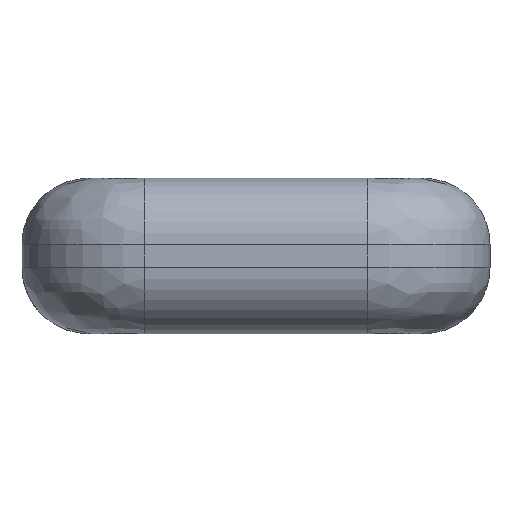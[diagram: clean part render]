
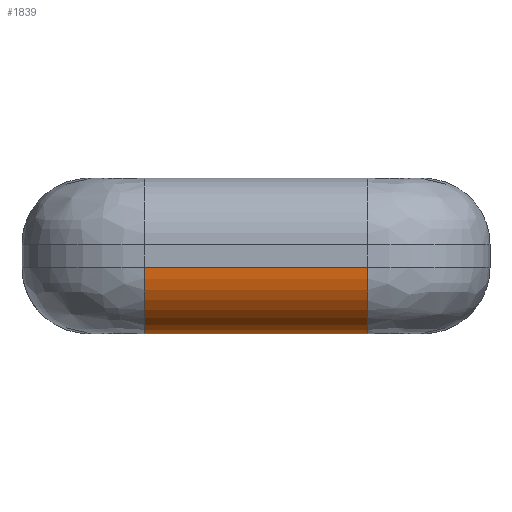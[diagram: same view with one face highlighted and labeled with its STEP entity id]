
A CAD part, front view. The second image highlights one B-rep face of the part: STEP entity #1839.
In plain terms, the highlighted cylindrical face has radius 12 mm (diameter 24 mm), a partial arc.
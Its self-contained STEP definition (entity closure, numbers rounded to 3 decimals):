
#187=FACE_OUTER_BOUND('',#293,.T.);
#293=EDGE_LOOP('',(#1595,#1596,#1597,#1598));
#435=LINE('',#3458,#581);
#449=LINE('',#3500,#595);
#581=VECTOR('',#2462,10.);
#595=VECTOR('',#2514,10.);
#689=CIRCLE('',#2031,12.);
#690=CIRCLE('',#2032,12.);
#853=VERTEX_POINT('',#3448);
#855=VERTEX_POINT('',#3456);
#863=VERTEX_POINT('',#3497);
#864=VERTEX_POINT('',#3499);
#1099=EDGE_CURVE('',#853,#855,#435,.T.);
#1119=EDGE_CURVE('',#855,#863,#689,.T.);
#1120=EDGE_CURVE('',#863,#864,#449,.T.);
#1121=EDGE_CURVE('',#864,#853,#690,.T.);
#1595=ORIENTED_EDGE('',*,*,#1119,.T.);
#1596=ORIENTED_EDGE('',*,*,#1120,.T.);
#1597=ORIENTED_EDGE('',*,*,#1121,.T.);
#1598=ORIENTED_EDGE('',*,*,#1099,.T.);
#1745=CYLINDRICAL_SURFACE('',#2030,12.);
#1839=ADVANCED_FACE('',(#187),#1745,.T.);
#2030=AXIS2_PLACEMENT_3D('',#3496,#2510,#2511);
#2031=AXIS2_PLACEMENT_3D('',#3498,#2512,#2513);
#2032=AXIS2_PLACEMENT_3D('',#3501,#2515,#2516);
#2462=DIRECTION('',(1.,0.,0.));
#2510=DIRECTION('center_axis',(-1.,0.,0.));
#2511=DIRECTION('ref_axis',(0.,-0.707,-0.707));
#2512=DIRECTION('center_axis',(-1.,0.,0.));
#2513=DIRECTION('ref_axis',(0.,0.,-1.));
#2514=DIRECTION('',(-1.,0.,0.));
#2515=DIRECTION('center_axis',(1.,0.,0.));
#2516=DIRECTION('ref_axis',(0.,-1.,0.));
#3448=CARTESIAN_POINT('',(-20.1,-65.1,-26.));
#3456=CARTESIAN_POINT('',(20.1,-65.1,-26.));
#3458=CARTESIAN_POINT('',(-21.05,-65.1,-26.));
#3496=CARTESIAN_POINT('Origin',(-21.05,-65.1,-14.));
#3497=CARTESIAN_POINT('',(20.1,-77.1,-14.));
#3498=CARTESIAN_POINT('Origin',(20.1,-65.1,-14.));
#3499=CARTESIAN_POINT('',(-20.1,-77.1,-14.));
#3500=CARTESIAN_POINT('',(-21.05,-77.1,-14.));
#3501=CARTESIAN_POINT('Origin',(-20.1,-65.1,-14.));
